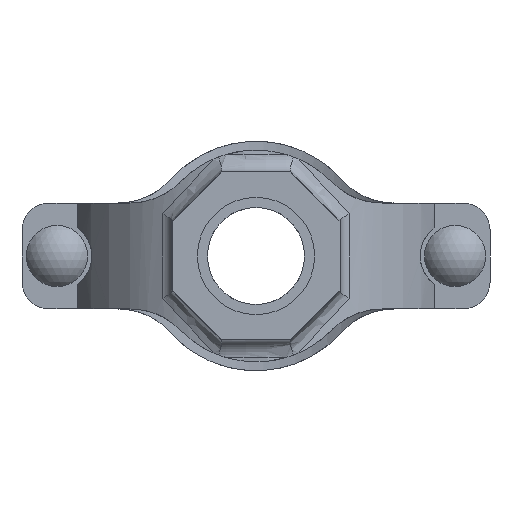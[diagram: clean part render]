
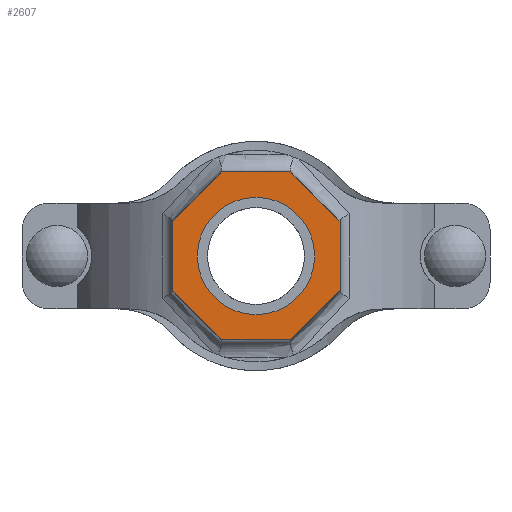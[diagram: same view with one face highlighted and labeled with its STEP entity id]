
A CAD part, front view. The second image highlights one B-rep face of the part: STEP entity #2607.
In plain terms, the highlighted planar face has unit normal (0, -1, 0) as drawn and (0, 1, 0) by its records, which use the part's own axes.
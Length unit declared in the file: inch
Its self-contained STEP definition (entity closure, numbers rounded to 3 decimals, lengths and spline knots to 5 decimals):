
#200=FACE_BOUND('',#477,.T.);
#323=FACE_OUTER_BOUND('',#476,.T.);
#476=EDGE_LOOP('',(#2183,#2184,#2185,#2186,#2187,#2188,#2189,#2190));
#477=EDGE_LOOP('',(#2191));
#615=LINE('',#4972,#801);
#618=LINE('',#4977,#804);
#620=LINE('',#4981,#806);
#622=LINE('',#4985,#808);
#658=LINE('',#5315,#844);
#660=LINE('',#5319,#846);
#662=LINE('',#5323,#848);
#664=LINE('',#5326,#850);
#801=VECTOR('',#3362,0.3937);
#804=VECTOR('',#3367,0.3937);
#806=VECTOR('',#3371,0.3937);
#808=VECTOR('',#3375,0.3937);
#844=VECTOR('',#3497,0.3937);
#846=VECTOR('',#3501,0.3937);
#848=VECTOR('',#3505,0.3937);
#850=VECTOR('',#3509,0.3937);
#936=CIRCLE('',#2871,0.83);
#1132=VERTEX_POINT('',#4969);
#1133=VERTEX_POINT('',#4971);
#1134=VERTEX_POINT('',#4975);
#1135=VERTEX_POINT('',#4979);
#1136=VERTEX_POINT('',#4983);
#1157=VERTEX_POINT('',#5130);
#1183=VERTEX_POINT('',#5314);
#1184=VERTEX_POINT('',#5318);
#1185=VERTEX_POINT('',#5322);
#1454=EDGE_CURVE('',#1133,#1132,#615,.T.);
#1457=EDGE_CURVE('',#1132,#1134,#618,.T.);
#1459=EDGE_CURVE('',#1134,#1135,#620,.T.);
#1461=EDGE_CURVE('',#1135,#1136,#622,.T.);
#1492=EDGE_CURVE('',#1157,#1157,#936,.T.);
#1528=EDGE_CURVE('',#1183,#1133,#658,.T.);
#1530=EDGE_CURVE('',#1184,#1183,#660,.T.);
#1532=EDGE_CURVE('',#1185,#1184,#662,.T.);
#1534=EDGE_CURVE('',#1136,#1185,#664,.T.);
#2183=ORIENTED_EDGE('',*,*,#1534,.T.);
#2184=ORIENTED_EDGE('',*,*,#1532,.T.);
#2185=ORIENTED_EDGE('',*,*,#1530,.T.);
#2186=ORIENTED_EDGE('',*,*,#1528,.T.);
#2187=ORIENTED_EDGE('',*,*,#1454,.T.);
#2188=ORIENTED_EDGE('',*,*,#1457,.T.);
#2189=ORIENTED_EDGE('',*,*,#1459,.T.);
#2190=ORIENTED_EDGE('',*,*,#1461,.T.);
#2191=ORIENTED_EDGE('',*,*,#1492,.T.);
#2343=PLANE('',#2894);
#2607=ADVANCED_FACE('',(#323,#200),#2343,.T.);
#2871=AXIS2_PLACEMENT_3D('',#5131,#3439,#3440);
#2894=AXIS2_PLACEMENT_3D('',#5327,#3510,#3511);
#3362=DIRECTION('',(0.,0.,1.));
#3367=DIRECTION('',(0.707,0.,0.707));
#3371=DIRECTION('',(1.,0.,0.));
#3375=DIRECTION('',(0.707,0.,-0.707));
#3439=DIRECTION('center_axis',(0.,-1.,0.));
#3440=DIRECTION('ref_axis',(-1.,0.,0.));
#3497=DIRECTION('',(-0.707,0.,0.707));
#3501=DIRECTION('',(-1.,0.,0.));
#3505=DIRECTION('',(-0.707,0.,-0.707));
#3509=DIRECTION('',(0.,0.,-1.));
#3510=DIRECTION('center_axis',(0.,1.,0.));
#3511=DIRECTION('ref_axis',(0.,0.,1.));
#4969=CARTESIAN_POINT('',(-1.19,3.78,0.49291));
#4971=CARTESIAN_POINT('',(-1.19,3.78,-0.49291));
#4972=CARTESIAN_POINT('',(-1.19,3.78,0.49291));
#4975=CARTESIAN_POINT('',(-0.49291,3.78,1.19));
#4977=CARTESIAN_POINT('',(-0.49291,3.78,1.19));
#4979=CARTESIAN_POINT('',(0.49291,3.78,1.19));
#4981=CARTESIAN_POINT('',(0.49291,3.78,1.19));
#4983=CARTESIAN_POINT('',(1.19,3.78,0.49291));
#4985=CARTESIAN_POINT('',(1.19,3.78,0.49291));
#5130=CARTESIAN_POINT('',(0.83,3.78,0.));
#5131=CARTESIAN_POINT('Origin',(0.,3.78,0.));
#5314=CARTESIAN_POINT('',(-0.49291,3.78,-1.19));
#5315=CARTESIAN_POINT('',(-1.19,3.78,-0.49291));
#5318=CARTESIAN_POINT('',(0.49291,3.78,-1.19));
#5319=CARTESIAN_POINT('',(-0.49291,3.78,-1.19));
#5322=CARTESIAN_POINT('',(1.19,3.78,-0.49291));
#5323=CARTESIAN_POINT('',(0.49291,3.78,-1.19));
#5326=CARTESIAN_POINT('',(1.19,3.78,-0.49291));
#5327=CARTESIAN_POINT('Origin',(0.,3.78,0.));
